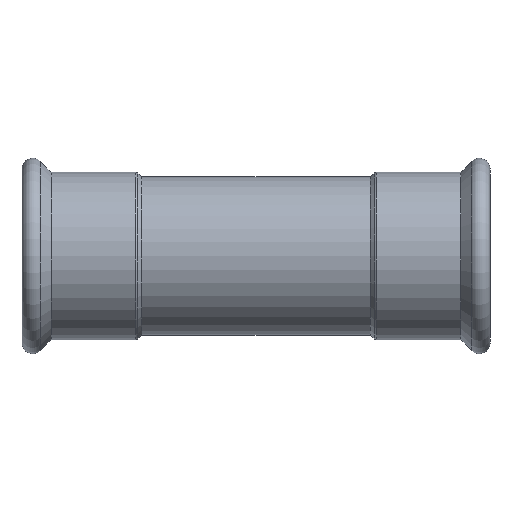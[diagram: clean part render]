
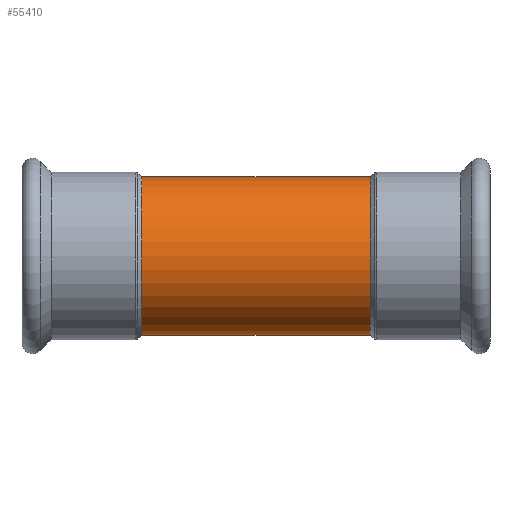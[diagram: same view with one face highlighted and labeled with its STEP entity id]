
A CAD part, top view. The second image highlights one B-rep face of the part: STEP entity #55410.
In plain terms, the highlighted cylindrical face has radius 44.45 mm (diameter 88.9 mm), a partial arc.
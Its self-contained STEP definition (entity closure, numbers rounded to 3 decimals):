
#1510=CARTESIAN_POINT('',(94.344,138.195,
0.));
#1520=DIRECTION('',(1.,0.,0.));
#1530=DIRECTION('',(0.,0.,1.));
#1540=AXIS2_PLACEMENT_3D('',#1510,#1520,#1530);
#1550=CYLINDRICAL_SURFACE('',#1540,44.45);
#20510=CARTESIAN_POINT('',(94.344,138.195,-44.45));
#20520=DIRECTION('',(1.,0.,0.));
#20530=VECTOR('',#20520,1.);
#20540=LINE('',#20510,#20530);
#20550=CARTESIAN_POINT('',(-33.656,138.195,-44.45));
#20560=VERTEX_POINT('',#20550);
#20570=CARTESIAN_POINT('',(94.344,138.195,-44.45));
#20580=VERTEX_POINT('',#20570);
#20590=EDGE_CURVE('',#20560,#20580,#20540,.T.);
#20610=CARTESIAN_POINT('',(94.344,138.195,
0.));
#20620=DIRECTION('',(1.,0.,0.));
#20630=DIRECTION('',(0.,0.,-1.));
#20640=AXIS2_PLACEMENT_3D('',#20610,#20620,#20630);
#20650=CIRCLE('',#20640,44.45);
#20660=CARTESIAN_POINT('',(94.344,138.195,44.45));
#20670=VERTEX_POINT('',#20660);
#20700=CARTESIAN_POINT('',(94.344,138.195,44.45));
#20710=DIRECTION('',(1.,0.,0.));
#20720=VECTOR('',#20710,1.);
#20730=LINE('',#20700,#20720);
#20740=CARTESIAN_POINT('',(-33.656,138.195,44.45));
#20750=VERTEX_POINT('',#20740);
#20760=EDGE_CURVE('',#20750,#20670,#20730,.T.);
#20780=CARTESIAN_POINT('',(-33.656,138.195,
0.));
#20790=DIRECTION('',(1.,0.,0.));
#20800=DIRECTION('',(0.,0.,1.));
#20810=AXIS2_PLACEMENT_3D('',#20780,#20790,#20800);
#20820=CIRCLE('',#20810,44.45);
#54230=EDGE_CURVE('',#20750,#20560,#20820,.T.);
#55340=ORIENTED_EDGE('',*,*,#54230,.T.);
#55350=ORIENTED_EDGE('',*,*,#20760,.F.);
#55360=EDGE_CURVE('',#20670,#20580,#20650,.T.);
#55370=ORIENTED_EDGE('',*,*,#55360,.F.);
#55380=ORIENTED_EDGE('',*,*,#20590,.T.);
#55390=EDGE_LOOP('',(#55380,#55370,#55350,#55340));
#55400=FACE_OUTER_BOUND('',#55390,.T.);
#55410=ADVANCED_FACE('',(#55400),#1550,.T.);
